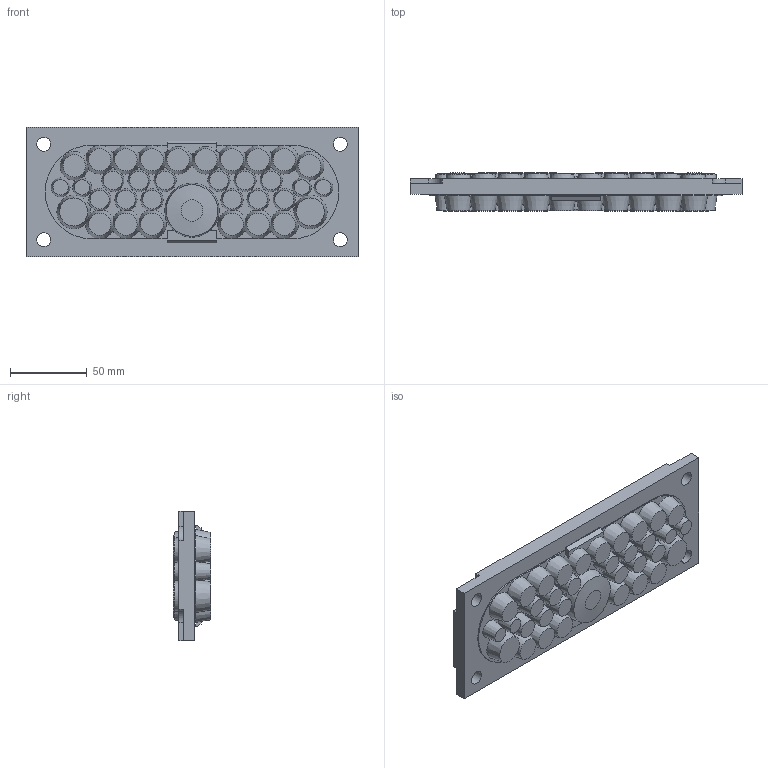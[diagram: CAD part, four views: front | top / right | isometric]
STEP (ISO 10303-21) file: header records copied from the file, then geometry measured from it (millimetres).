
FILE_DESCRIPTION( ( 'STEP AP214' ), '1' );
FILE_NAME( 'p:/temp/worker_131/temp/exporttempdir_4344_53_xaJui/format_0/EHTC2135G(0).stp', '2021-03-15T16:50:16', ( 'License CC BY-ND 4.0' ), ( 'CADENAS' ), ' ', 'PARTsolutions', ' ' );
FILE_SCHEMA( ( 'AUTOMOTIVE_DESIGN { 1 0 10303 214 1 1 1 1 }' ) );
Length unit declared in the file: millimetre
Products named in the file (1): _EHTC2135G(0)
Bounding box: 216 x 24.71 x 84 mm (x, y, z)
Volume: 281094.7 mm3; surface area: 62318.5 mm2
Topology: 1 solids, 1 shells, 278 faces, 610 edges, 406 vertices
Faces by surface type: plane 147, cone 86, cylinder 45
Full cylindrical faces by diameter (mm): 8.814 x4, 9.114 x12, 9.2 x4, 10.814 x16, 14.02 x2
Entity records: 10028 total; most frequent: CARTESIAN_POINT 2130, DIRECTION 1256, ORIENTED_EDGE 926, AXIS2_PLACEMENT_3D 571, EDGE_LOOP 468, EDGE_CURVE 463, VERTEX_POINT 369, FACE_OUTER_BOUND 316
